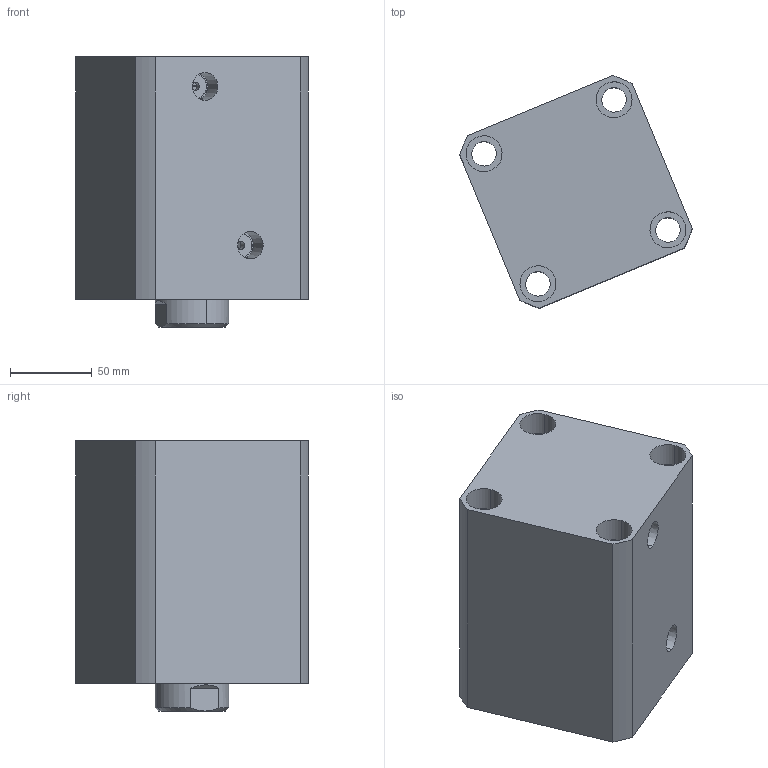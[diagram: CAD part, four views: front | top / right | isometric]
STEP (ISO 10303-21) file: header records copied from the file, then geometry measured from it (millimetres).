
FILE_DESCRIPTION (( 'STEP AP214' ), '1' );
FILE_NAME ('chtb-sd80x70n_asm.STEP', '2018-05-26T04:23:01', ( 'Windows' ), ( 'Microsoft' ), 'SwSTEP 2.0', 'SolidWorks 2015', '' );
FILE_SCHEMA (( 'AUTOMOTIVE_DESIGN' ));
Length unit declared in the file: millimetre
Products named in the file (4): CHTB-SD80X70NBT; CHTB-SD80QG; chtb-sd80x70n_asm; CHTB-SD80X70NHSG
Assembly tree (3 placements, depth 2):
  chtb-sd80x70n_asm
    CHTB-SD80QG
    CHTB-SD80X70NBT
    CHTB-SD80X70NHSG
Bounding box: 142.06 x 142.06 x 165 mm (x, y, z)
Volume: 1514292.6 mm3; surface area: 220990.2 mm2
Topology: 3 solids, 3 shells, 192 faces, 510 edges, 341 vertices
Faces by surface type: cylinder 103, plane 37, cone 20, torus 18, bspline 14
Entity records: 15144 total; most frequent: CARTESIAN_POINT 10435, ORIENTED_EDGE 1008, DIRECTION 889, EDGE_CURVE 504, AXIS2_PLACEMENT_3D 374, VERTEX_POINT 341, EDGE_LOOP 229, ADVANCED_FACE 192
